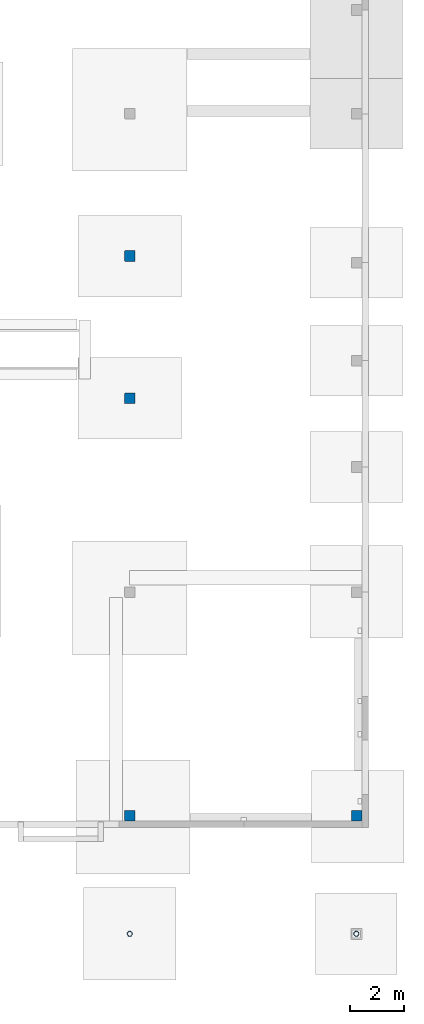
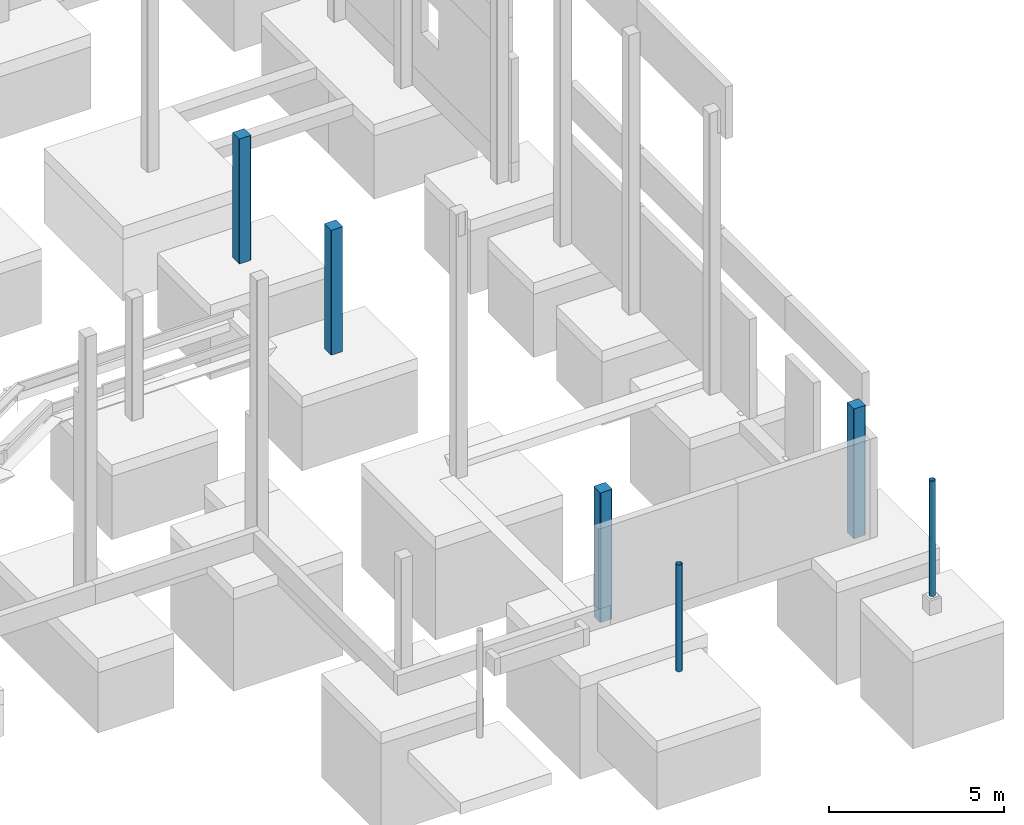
# One storey, part 5 of 12: 6 columns.
"""IFC4X3_ADD2 building model written with IfcOpenShell, lengths in millimetres."""

from ifc_helpers import new_model, si_unit, direction, frame, frame_2d, origin_with_axes, place, context, subcontext, project, spatial, polyline, hollow_circle, outline, extrude, source, transform, mapped, material, type_object, type_shapes, element, save


model = new_model("IFC4X3_ADD2")

# Units and contexts
model_context = context("Model", 3, precision=1e-05, world=origin_with_axes(), true_north=direction((0.0, 1.0)))
body_context = subcontext(model_context, "Body", "Model", "MODEL_VIEW")
ifc_project = project(units=[si_unit("LENGTHUNIT", "METRE", prefix="MILLI"), si_unit("AREAUNIT", "SQUARE_METRE"), si_unit("VOLUMEUNIT", "CUBIC_METRE"), si_unit("PLANEANGLEUNIT", "RADIAN"), si_unit("TIMEUNIT", "SECOND"), si_unit("MASSUNIT", "GRAM")], contexts=[model_context])

# Site, building, storey
site_placement = place(None, origin_with_axes())
site = spatial("IfcSite", under=ifc_project, at=site_placement, Name="Site", CompositionType="ELEMENT")
building_placement = place(site_placement, origin_with_axes())
building = spatial("IfcBuilding", under=site, at=building_placement, Name="IFC Building Story")
storey_placement = place(building_placement, frame((0.0, 0.0, -800.0), z_axis=(0.0, 0.0, 1.0), x_axis=(1.0, 0.0, 0.0)))
storey = spatial("IfcBuildingStorey", under=building, at=storey_placement, Name="FOND 00 (0)", Elevation=-800.0)

# Columns
ifc_material = material(Name="BS_28_Métal")
column_type_1 = type_object("IfcColumnType", Name="BS_28_SCO_LE_Poteau RO (EN 10219-2)_CHS 193.7x10_1", PredefinedType="NOTDEFINED")
shared_shape_1 = source(origin_with_axes(), body_context, "Body", "SweptSolid", [
    extrude(hollow_circle(Radius=96.8499999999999, WallThickness=9.99999999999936, at=frame_2d((0.0, 5.95523630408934e-12), x_axis=(0.0, 1.0))), frame((48301.68947815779, -12385.0000000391, -250.0), z_axis=(0.0, 0.0, 1.0), x_axis=(1.0, 0.0, 0.0)), (0.0, 0.0, 1.0), 4019.99999999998),
])
type_shapes(column_type_1, [shared_shape_1])
column_1_placement = place(storey_placement, frame((0.0, 0.0, 800.0), z_axis=(0.0, 0.0, 1.0), x_axis=(1.0, 0.0, 0.0)))
element("IfcColumn", 1, at=column_1_placement, inside=storey, type_object=column_type_1, material=ifc_material, Name="BS_28_SCO_LE_Poteau RO (EN 10219-2):CHS 193.7x10", ObjectType="CHS 193.7x10", context=body_context, shape_type="MappedRepresentation", body=[
    mapped(shared_shape_1, transform((0.0, 0.0, 0.0))),
])
column_type_2 = type_object("IfcColumnType", Name="BS_28_SCO_LE_Poteau RO (EN 10219-2)_CHS 193.7x10_3", PredefinedType="NOTDEFINED")
shared_shape_2 = source(origin_with_axes(), body_context, "Body", "SweptSolid", [
    extrude(hollow_circle(Radius=96.8499999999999, WallThickness=9.99999999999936, at=frame_2d((0.0, 5.95523630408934e-12), x_axis=(0.0, 1.0))), frame((39961.6894781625, -12385.0000000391, 50.0), z_axis=(0.0, 0.0, 1.0), x_axis=(1.0, 0.0, 0.0)), (0.0, 0.0, 1.0), 3720.0),
])
type_shapes(column_type_2, [shared_shape_2])
column_2_placement = place(storey_placement, frame((0.0, 0.0, 800.0), z_axis=(0.0, 0.0, 1.0), x_axis=(1.0, 0.0, 0.0)))
element("IfcColumn", 2, at=column_2_placement, inside=storey, type_object=column_type_2, material=ifc_material, Name="BS_28_SCO_LE_Poteau RO (EN 10219-2):CHS 193.7x10", ObjectType="CHS 193.7x10", context=body_context, shape_type="MappedRepresentation", body=[
    mapped(shared_shape_2, transform((0.0, 0.0, 0.0))),
])
column_3_placement = place(storey_placement, frame((39771.18899999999, -8230.0, 40.0), z_axis=(0.0, 0.0, 1.0), x_axis=(1.0, 0.0, 0.0)))
element("IfcColumn", 3, at=column_3_placement, inside=storey, Name="COLUMN", ObjectType="EB_CR_390*390*15", context=body_context, shape_type="SweptSolid", body=[
    extrude(outline(polyline([(179.9999999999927, -195.0), (-180.0, -195.0), (-195.0000000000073, -179.9999999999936), (-195.0, 179.9999999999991), (-180.0, 194.9999999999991), (179.9999999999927, 194.9999999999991), (195.0, 179.9999999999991), (195.0, -180.0), (179.9999999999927, -195.0)])), frame((195.0000000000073, 195.0, 0.0), z_axis=(0.0, 0.0, 1.0), x_axis=(1.0, 0.0, 0.0)), (0.0, 0.0, 1.0), 4520.0),
])
for number, where, z_axis, x_axis, name in (
    (4, (39771.189, 12369.838, 40.0), (0.0, 0.0, 1.0), (1.0, 0.0, 0.0), "COLUMN"),
    (5, (39771.18899999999, 7129.837999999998, 40.0), (0.0, 0.0, 1.0), (1.0, 0.0, 0.0), "COLUMN"),
):
    element("IfcColumn", number, at=place(storey_placement, frame(where, z_axis=z_axis, x_axis=x_axis)), inside=storey, Name=name, ObjectType="EB_CR_390*390*15", context=body_context, shape_type="SweptSolid", body=[
        extrude(outline(polyline([(179.9999999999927, -195.0), (-180.0, -195.0), (-195.0000000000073, -179.9999999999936), (-195.0, 179.9999999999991), (-180.0, 194.9999999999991), (179.9999999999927, 194.9999999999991), (195.0, 179.9999999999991), (195.0, -180.0), (179.9999999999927, -195.0)])), frame((195.0000000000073, 195.0, 0.0), z_axis=(0.0, 0.0, 1.0), x_axis=(1.0, 0.0, 0.0)), (0.0, 0.0, 1.0), 4350.0),
    ])
column_4_placement = place(storey_placement, frame((48116.18800000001, -8230.0, 40.0), z_axis=(0.0, 0.0, 1.0), x_axis=(1.0, 0.0, 0.0)))
element("IfcColumn", 6, at=column_4_placement, inside=storey, Name="COLUMN", ObjectType="EB_CR_390*390*15", context=body_context, shape_type="SweptSolid", body=[
    extrude(outline(polyline([(179.9999999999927, -195.0), (-180.0, -195.0), (-195.0000000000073, -179.9999999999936), (-195.0, 179.9999999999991), (-180.0, 194.9999999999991), (179.9999999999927, 194.9999999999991), (195.0, 179.9999999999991), (195.0, -180.0), (179.9999999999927, -195.0)])), frame((195.0000000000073, 195.0, 0.0), z_axis=(0.0, 0.0, 1.0), x_axis=(1.0, 0.0, 0.0)), (0.0, 0.0, 1.0), 4520.0),
])

save(model, "model.ifc")
